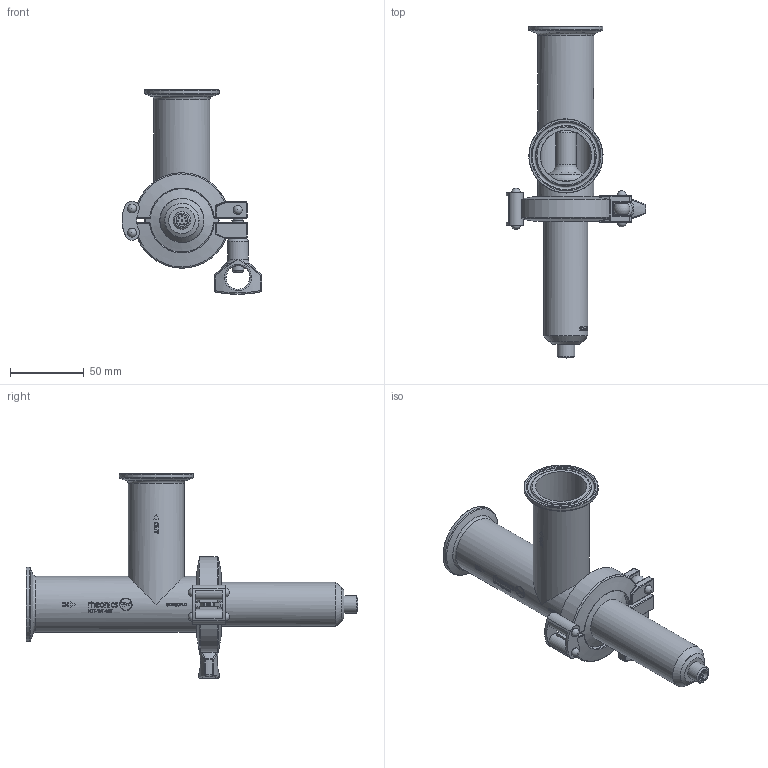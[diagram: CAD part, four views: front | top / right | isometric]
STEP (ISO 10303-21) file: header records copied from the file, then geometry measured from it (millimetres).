
FILE_DESCRIPTION(/* description */ ('Unknown'),/* implementation_level */ '2;1');
FILE_NAME(/* name */ 'SRV-X5-A103-B150T_FET-15T-15T',/* time_stamp */ '2024-08-09T15:56:47-05:00',/* author */ ('Unknown'),/* organization */ ('Unknown'),/* preprocessor_version */ 'ST-DEVELOPER v16.7',/* originating_system */ 'Solid Edge',/* authorisation */ 'Unknown');
FILE_SCHEMA (('AUTOMOTIVE_DESIGN {1 0 10303 214 3 1 1}'));
Length unit declared in the file: millimetre
Products named in the file (5): SRV-X5-A103-B150T_FET-15T-15T; SRV-X5-A103-B15T; TC-15T-Seal; TC-15T-Clamp; FET-15T-15T
Assembly tree (4 placements, depth 2):
  SRV-X5-A103-B150T_FET-15T-15T
    SRV-X5-A103-B15T
    TC-15T-Seal
    TC-15T-Clamp
    FET-15T-15T
Bounding box: 95.08 x 225.82 x 139.19 mm (x, y, z)
Volume: 171711.6 mm3; surface area: 87116.7 mm2
Topology: 4 solids, 4 shells, 1149 faces, 2868 edges, 1825 vertices
Faces by surface type: bspline 396, plane 369, cylinder 258, torus 68, cone 33, sphere 25
Full cylindrical faces by diameter (mm): 0.8 x8, 5 x1, 6 x8, 6.8 x1, 8 x4, 12 x1, 13.9 x1, 14 x1, 16 x1, 30 x2, 34.8 x2, 38.1 x2, 38.2 x1, 50.5 x5
Entity records: 72630 total; most frequent: CARTESIAN_POINT 42680, ORIENTED_EDGE 5380, DIRECTION 4002, EDGE_CURVE 2690, VERTEX_POINT 1788, AXIS2_PLACEMENT_3D 1469, EDGE_LOOP 1400, FACE_BOUND 1400
